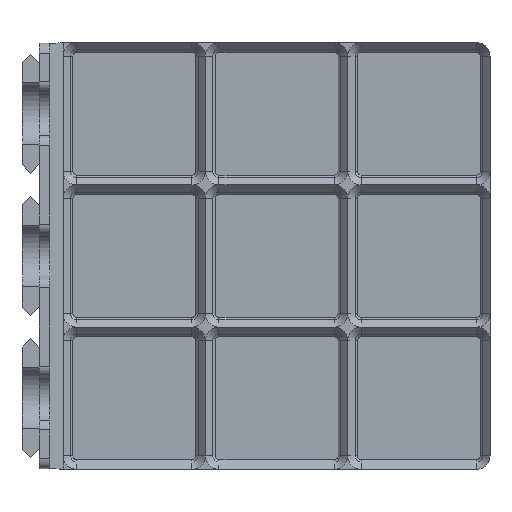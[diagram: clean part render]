
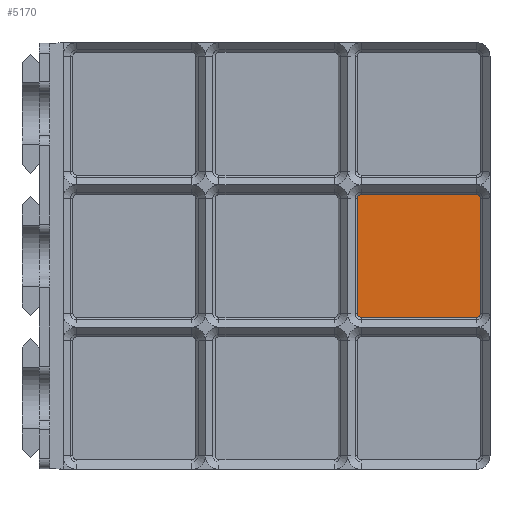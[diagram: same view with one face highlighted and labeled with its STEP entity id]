
A CAD part, top view. The second image highlights one B-rep face of the part: STEP entity #5170.
In plain terms, the highlighted planar face has unit normal (0, 0, 1).
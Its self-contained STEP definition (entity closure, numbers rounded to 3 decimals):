
#96=PLANE('',#5542);
#288=FACE_OUTER_BOUND('',#636,.T.);
#636=EDGE_LOOP('',(#3560,#3561,#3562,#3563,#3564,#3565,#3566,#3567));
#999=LINE('',#7835,#1564);
#1000=LINE('',#7839,#1565);
#1001=LINE('',#7843,#1566);
#1002=LINE('',#7846,#1567);
#1564=VECTOR('',#6144,10.);
#1565=VECTOR('',#6147,10.);
#1566=VECTOR('',#6150,10.);
#1567=VECTOR('',#6153,10.);
#2119=CIRCLE('',#5543,1.154);
#2120=CIRCLE('',#5544,1.154);
#2121=CIRCLE('',#5545,1.154);
#2122=CIRCLE('',#5546,1.154);
#2345=VERTEX_POINT('',#7831);
#2346=VERTEX_POINT('',#7832);
#2347=VERTEX_POINT('',#7834);
#2348=VERTEX_POINT('',#7836);
#2349=VERTEX_POINT('',#7838);
#2350=VERTEX_POINT('',#7840);
#2351=VERTEX_POINT('',#7842);
#2352=VERTEX_POINT('',#7844);
#2781=EDGE_CURVE('',#2345,#2346,#2119,.F.);
#2782=EDGE_CURVE('',#2346,#2347,#999,.F.);
#2783=EDGE_CURVE('',#2347,#2348,#2120,.F.);
#2784=EDGE_CURVE('',#2348,#2349,#1000,.F.);
#2785=EDGE_CURVE('',#2349,#2350,#2121,.F.);
#2786=EDGE_CURVE('',#2350,#2351,#1001,.F.);
#2787=EDGE_CURVE('',#2351,#2352,#2122,.F.);
#2788=EDGE_CURVE('',#2352,#2345,#1002,.F.);
#3560=ORIENTED_EDGE('',*,*,#2781,.T.);
#3561=ORIENTED_EDGE('',*,*,#2782,.T.);
#3562=ORIENTED_EDGE('',*,*,#2783,.T.);
#3563=ORIENTED_EDGE('',*,*,#2784,.T.);
#3564=ORIENTED_EDGE('',*,*,#2785,.T.);
#3565=ORIENTED_EDGE('',*,*,#2786,.T.);
#3566=ORIENTED_EDGE('',*,*,#2787,.T.);
#3567=ORIENTED_EDGE('',*,*,#2788,.T.);
#5170=ADVANCED_FACE('',(#288),#96,.F.);
#5542=AXIS2_PLACEMENT_3D('',#7830,#6140,#6141);
#5543=AXIS2_PLACEMENT_3D('',#7833,#6142,#6143);
#5544=AXIS2_PLACEMENT_3D('',#7837,#6145,#6146);
#5545=AXIS2_PLACEMENT_3D('',#7841,#6148,#6149);
#5546=AXIS2_PLACEMENT_3D('',#7845,#6151,#6152);
#6140=DIRECTION('center_axis',(0.,0.,
-1.));
#6141=DIRECTION('ref_axis',(1.,0.,0.));
#6142=DIRECTION('center_axis',(0.,0.,
-1.));
#6143=DIRECTION('ref_axis',(0.,-1.,0.));
#6144=DIRECTION('',(-1.,0.,0.));
#6145=DIRECTION('center_axis',(0.,0.,
-1.));
#6146=DIRECTION('ref_axis',(1.,0.,0.));
#6147=DIRECTION('',(0.,-1.,0.));
#6148=DIRECTION('center_axis',(0.,0.,
-1.));
#6149=DIRECTION('ref_axis',(0.,1.,0.));
#6150=DIRECTION('',(1.,0.,0.));
#6151=DIRECTION('center_axis',(0.,0.,
-1.));
#6152=DIRECTION('ref_axis',(-1.,0.,0.));
#6153=DIRECTION('',(0.,1.,0.));
#7830=CARTESIAN_POINT('Origin',(204.65,42.,-142.124));
#7831=CARTESIAN_POINT('',(189.996,25.,-142.124));
#7832=CARTESIAN_POINT('',(191.15,23.846,-142.124));
#7833=CARTESIAN_POINT('Origin',(191.15,25.,-142.124));
#7834=CARTESIAN_POINT('',(225.15,23.846,-142.124));
#7835=CARTESIAN_POINT('',(216.65,23.846,-142.124));
#7836=CARTESIAN_POINT('',(226.304,25.,-142.124));
#7837=CARTESIAN_POINT('Origin',(225.15,25.,-142.124));
#7838=CARTESIAN_POINT('',(226.304,59.,-142.124));
#7839=CARTESIAN_POINT('',(226.304,50.5,-142.124));
#7840=CARTESIAN_POINT('',(225.15,60.154,-142.124));
#7841=CARTESIAN_POINT('Origin',(225.15,59.,-142.124));
#7842=CARTESIAN_POINT('',(191.15,60.154,-142.124));
#7843=CARTESIAN_POINT('',(199.65,60.154,-142.124));
#7844=CARTESIAN_POINT('',(189.996,59.,-142.124));
#7845=CARTESIAN_POINT('Origin',(191.15,59.,-142.124));
#7846=CARTESIAN_POINT('',(189.996,42.,-142.124));
